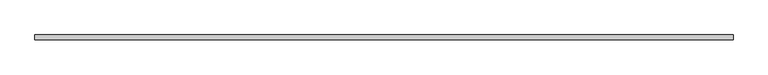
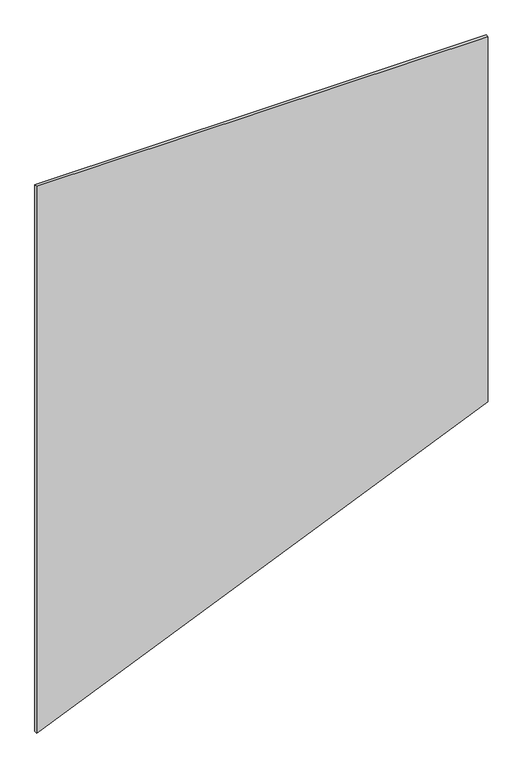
"""IFC4 building model written with IfcOpenShell, lengths in millimetres: plate geometry, 系統嵌板 : 玻璃 1.0cm."""

from ifc_helpers import new_model, si_unit, frame, origin, place, context, project, spatial, polyline, outline, extrude, source, transform, mapped, element, save


def plate_3192af7a(model_context):
    return source(origin(), model_context, "Body", "SweptSolid", [
        extrude(outline(polyline([(0.0, -750.0), (637.3757322, 750.0), (1919.7942483, 750.0), (1919.7942483, -750.0), (0.0, -750.0)])), frame((0.0, -5.0, 0.0), z_axis=(0.0, 1.0, 0.0), x_axis=(0.0, 0.0, 1.0)), (0.0, 0.0, 1.0), 10.0),
    ])


if __name__ == "__main__":
    model = new_model("IFC4")
    model_context = context("Model", 3, world=origin())
    ifc_project = project(units=[si_unit("LENGTHUNIT", "METRE", prefix="MILLI")], contexts=[model_context])
    site = spatial("IfcSite", under=ifc_project)
    building = spatial("IfcBuilding", under=site)
    placement = place(None, origin())
    plate_shape = plate_3192af7a(model_context)
    element("IfcPlate", 1, ObjectType="系統嵌板 : 玻璃 1.0cm", at=placement, inside=building, context=model_context, shape_type="MappedRepresentation", body=[
        mapped(plate_shape, transform((0.0, 0.0, 0.0), x_axis=(1.0, 0.0, 0.0), y_axis=(0.0, 1.0, 0.0), z_axis=(0.0, 0.0, 1.0))),
    ])
    save(model, "model.ifc")
